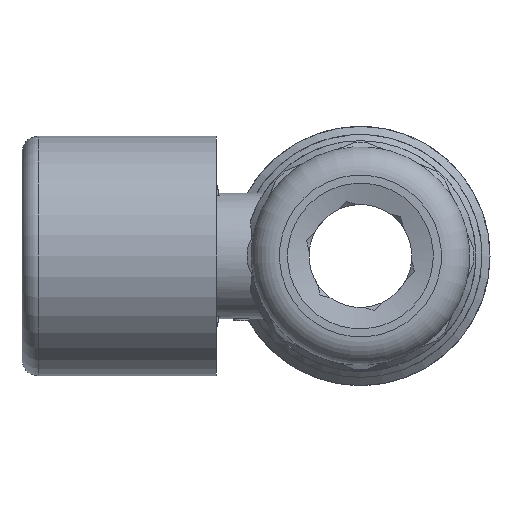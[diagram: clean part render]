
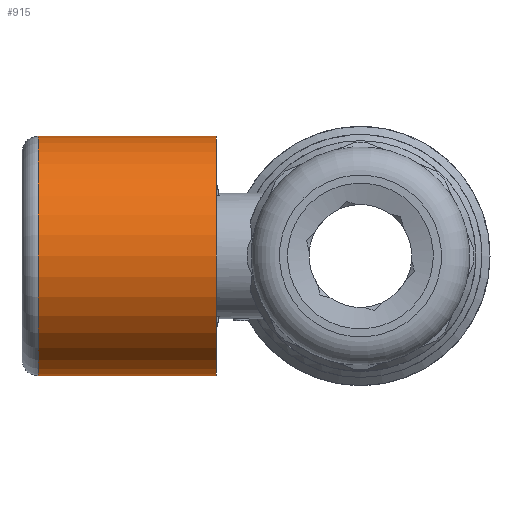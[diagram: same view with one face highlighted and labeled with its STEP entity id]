
A CAD part, left-side view. The second image highlights one B-rep face of the part: STEP entity #915.
In plain terms, the highlighted cylindrical face has radius 14.8 mm (diameter 29.6 mm), a full revolution.
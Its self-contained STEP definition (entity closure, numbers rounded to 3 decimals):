
#873=CARTESIAN_POINT('',(0.0,39.729,14.829));
#874=VERTEX_POINT('',#873);
#875=CARTESIAN_POINT('',(0.0,39.729,0.029));
#876=DIRECTION('',(0.0,1.0,0.0));
#877=DIRECTION('',(0.0,0.0,1.0));
#878=AXIS2_PLACEMENT_3D('',#875,#876,#877);
#879=CIRCLE('',#878,14.8);
#880=EDGE_CURVE('',#874,#874,#879,.T.);
#896=CARTESIAN_POINT('',(0.0,28.729,0.029));
#897=DIRECTION('',(0.0,1.0,0.0));
#898=DIRECTION('',(-1.0,0.0,0.0));
#899=AXIS2_PLACEMENT_3D('',#896,#897,#898);
#900=CYLINDRICAL_SURFACE('',#899,14.8);
#901=CARTESIAN_POINT('',(0.0,17.729,14.829));
#902=VERTEX_POINT('',#901);
#903=CARTESIAN_POINT('',(0.0,17.729,0.029));
#904=DIRECTION('',(0.0,1.0,0.0));
#905=DIRECTION('',(0.0,0.0,1.0));
#906=AXIS2_PLACEMENT_3D('',#903,#904,#905);
#907=CIRCLE('',#906,14.8);
#908=EDGE_CURVE('',#902,#902,#907,.T.);
#909=ORIENTED_EDGE('',*,*,#908,.T.);
#910=EDGE_LOOP('',(#909));
#911=FACE_OUTER_BOUND('',#910,.T.);
#912=ORIENTED_EDGE('',*,*,#880,.F.);
#913=EDGE_LOOP('',(#912));
#914=FACE_BOUND('',#913,.T.);
#915=ADVANCED_FACE('',(#911,#914),#900,.T.);
